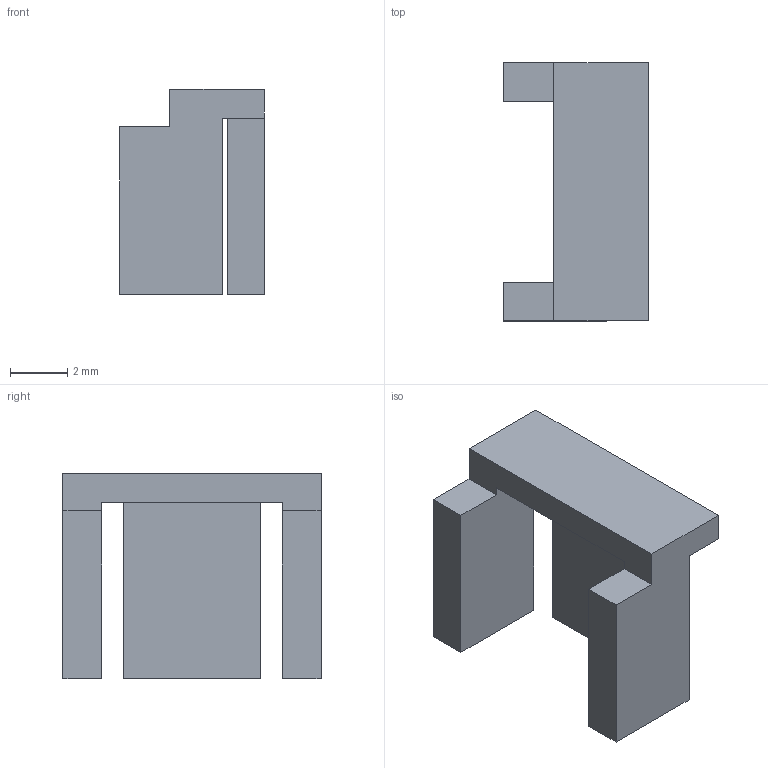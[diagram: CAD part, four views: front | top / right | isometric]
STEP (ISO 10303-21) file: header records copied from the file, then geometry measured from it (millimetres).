
FILE_DESCRIPTION(/* description */ (''),/* implementation_level */ '2;1');
FILE_NAME(/* name */ 'P08.step',/* time_stamp */ '2026-09-14T14:45:13-07:00',/* author */ (''),/* organization */ (''),/* preprocessor_version */ 'ST-DEVELOPER v20.1',/* originating_system */ 'Autodesk Translation Framework v15.8.0.0',/* authorisation */ '');
FILE_SCHEMA (('AUTOMOTIVE_DESIGN { 1 0 10303 214 3 1 1 }'));
Length unit declared in the file: millimetre
Products named in the file (1): 2026-09-14-14-45-13-449
Bounding box: 5.05 x 9 x 7.15 mm (x, y, z)
Volume: 126.4 mm3; surface area: 288.9 mm2
Topology: 1 solids, 1 shells, 24 faces, 66 edges, 44 vertices
Faces by surface type: plane 22, cylinder 2
Entity records: 787 total; most frequent: CARTESIAN_POINT 135, ORIENTED_EDGE 132, DIRECTION 120, EDGE_CURVE 66, LINE 62, VECTOR 62, VERTEX_POINT 44, AXIS2_PLACEMENT_3D 29
